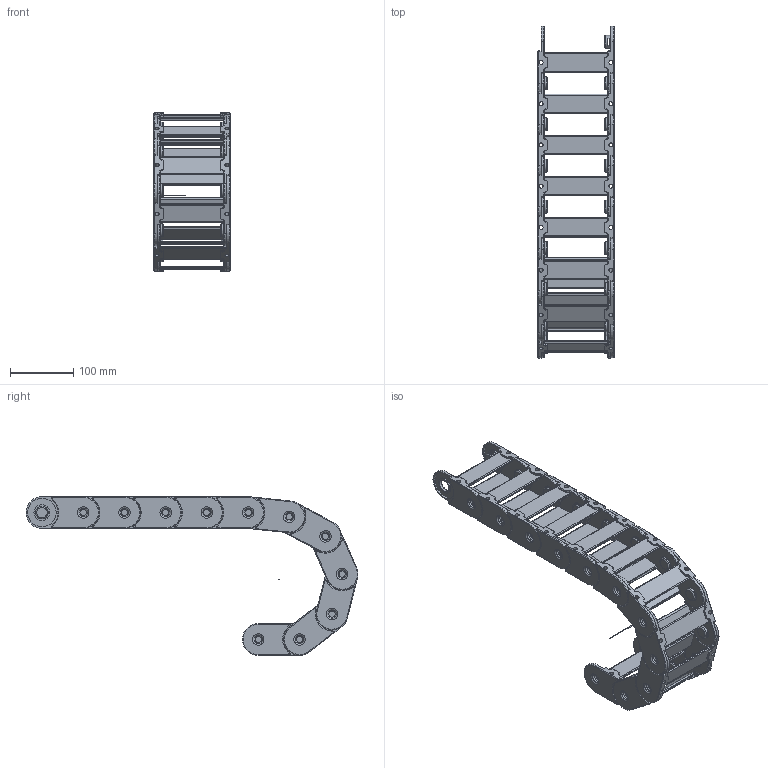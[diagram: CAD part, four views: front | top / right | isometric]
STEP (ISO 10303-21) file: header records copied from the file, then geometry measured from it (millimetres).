
FILE_DESCRIPTION((''),'2;1');
FILE_NAME('C:\Uebbing\TRACE PARTS\PKK\PKK 211\PKK 211 vereinfacht.stp','2013-05-02T10:51:58',('Uebbing'),(''),'Autodesk Inventor 10','Autodesk Inventor 10','');
FILE_SCHEMA(('AUTOMOTIVE_DESIGN { 1 0 10303 214 1 1 1 1 }'));
Length unit declared in the file: millimetre
Products named in the file (5): PKK 211 PARAMETRISCH; Achse; PKK 210 Glied vereinfacht; PKK 210 Lasche vereinfacht; 22 Steg vereinfacht
Assembly tree (16 placements, depth 3):
  PKK 211 PARAMETRISCH
    Achse
    PKK 210 Glied vereinfacht  x11
      PKK 210 Lasche vereinfacht
      22 Steg vereinfacht
Bounding box: 120 x 523.06 x 250 mm (x, y, z)
Volume: 876195.9 mm3; surface area: 501784.5 mm2
Topology: 45 solids, 45 shells, 2225 faces, 5394 edges, 3347 vertices
Faces by surface type: cylinder 925, plane 904, bspline 198, torus 154, sphere 44
Full cylindrical faces by diameter (mm): 1 x1, 6.3 x22, 14 x22, 20.1 x22, 20.309 x22, 25 x44, 45 x44
Entity records: 3403 total; most frequent: CARTESIAN_POINT 792, DIRECTION 555, ORIENTED_EDGE 466, EDGE_CURVE 233, AXIS2_PLACEMENT_3D 210, VERTEX_POINT 154, VECTOR 135, LINE 135
